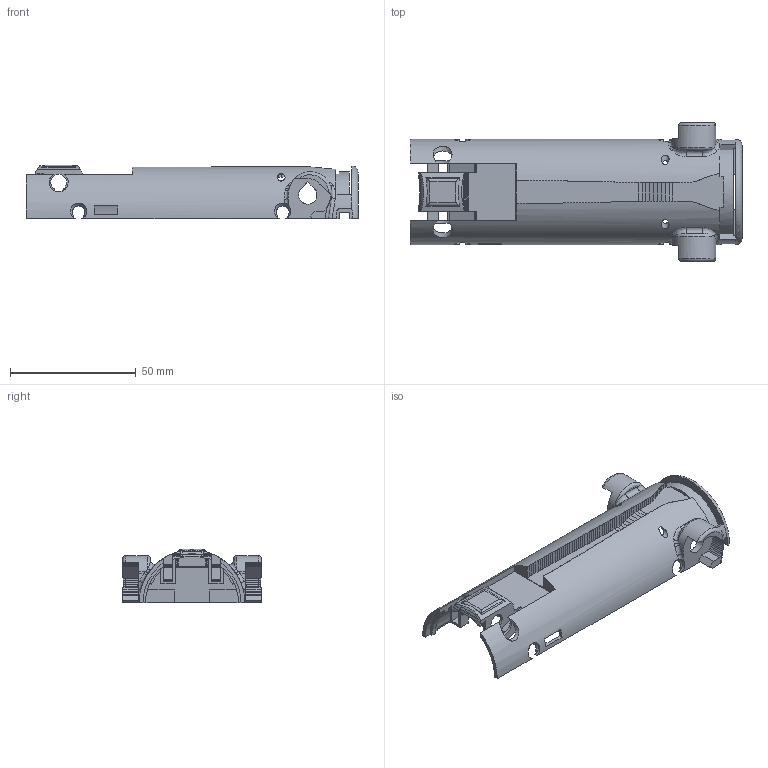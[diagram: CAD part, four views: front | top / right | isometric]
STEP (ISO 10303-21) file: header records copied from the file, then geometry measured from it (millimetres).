
FILE_DESCRIPTION(('Open CASCADE Model'),'2;1');
FILE_NAME('Open CASCADE Shape Model','2026-11-09T05:25:37',('Author'),( 'Open CASCADE'),'Open CASCADE STEP processor 8.0','build123d', 'Unknown');
FILE_SCHEMA(('AUTOMOTIVE_DESIGN { 1 0 10303 214 1 1 1 1 }'));
Products named in the file (1): COMPOUND
Bounding box: 132 x 55.2 x 21.3 mm (x, y, z)
Volume: 15707.7 mm3; surface area: 22747.1 mm2
Topology: 1 solids, 1 shells, 663 faces, 1985 edges, 1317 vertices
Faces by surface type: plane 584, cylinder 52, bspline 18, torus 5, cone 4
Full cylindrical faces by diameter (mm): 3 x2
Entity records: 61986 total; most frequent: CARTESIAN_POINT 26226, DIRECTION 5551, ORIENTED_EDGE 3970, PCURVE 3970, DEFINITIONAL_REPRESENTATION 3970, LINE 2935, VECTOR 2935, B_SPLINE_CURVE_WITH_KNOTS 2086
